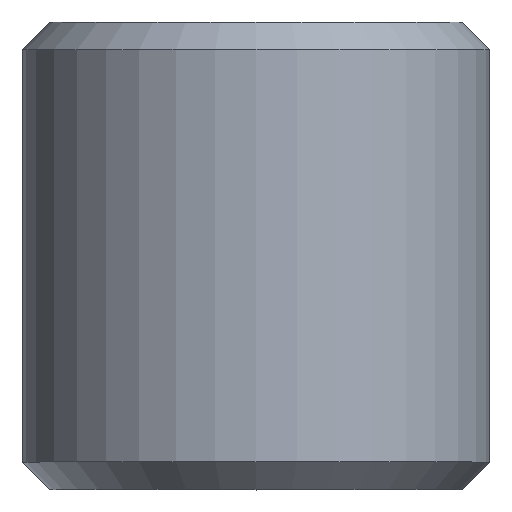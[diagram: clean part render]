
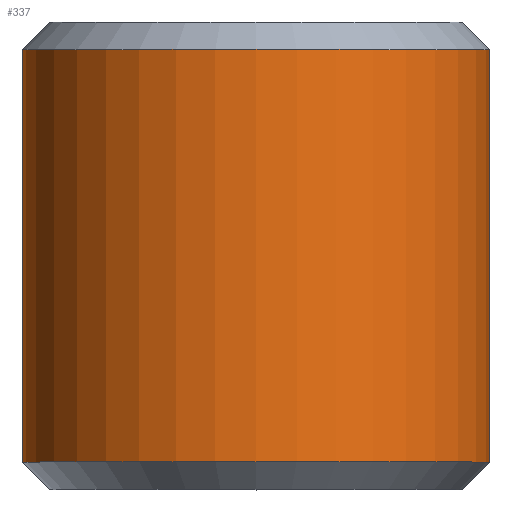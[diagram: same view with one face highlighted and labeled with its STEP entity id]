
A CAD part, top view. The second image highlights one B-rep face of the part: STEP entity #337.
In plain terms, the highlighted cylindrical face has radius 8.5 mm (diameter 17 mm), a partial arc.
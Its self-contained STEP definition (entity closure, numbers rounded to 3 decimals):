
#109=CARTESIAN_POINT('',(0.,7.5,0.));
#110=DIRECTION('',(0.,1.,0.));
#111=DIRECTION('',(-1.,0.,0.));
#112=AXIS2_PLACEMENT_3D('',#109,#110,#111);
#114=CARTESIAN_POINT('',(0.,-7.5,0.));
#115=DIRECTION('',(0.,-1.,0.));
#116=DIRECTION('',(1.,0.,0.));
#117=AXIS2_PLACEMENT_3D('',#114,#115,#116);
#119=DIRECTION('',(0.,1.,0.));
#120=VECTOR('',#119,15.);
#121=CARTESIAN_POINT('',(-8.5,-7.5,
0.));
#122=LINE('',#121,#120);
#133=DIRECTION('',(0.,1.,0.));
#134=VECTOR('',#133,15.);
#135=CARTESIAN_POINT('',(8.5,-7.5,
0.));
#136=LINE('',#135,#134);
#165=CARTESIAN_POINT('',(8.5,7.5,0.));
#166=CARTESIAN_POINT('',(-8.5,7.5,0.));
#167=VERTEX_POINT('',#165);
#168=VERTEX_POINT('',#166);
#173=CARTESIAN_POINT('',(-8.5,-7.5,0.));
#174=CARTESIAN_POINT('',(8.5,-7.5,0.));
#175=VERTEX_POINT('',#173);
#176=VERTEX_POINT('',#174);
#323=CARTESIAN_POINT('',(0.,-8.5,0.));
#324=DIRECTION('',(0.,1.,0.));
#325=DIRECTION('',(1.,0.,0.));
#326=AXIS2_PLACEMENT_3D('',#323,#324,#325);
#327=CYLINDRICAL_SURFACE('',#326,8.5);
#328=ORIENTED_EDGE('',*,*,#317,.T.);
#330=ORIENTED_EDGE('',*,*,#329,.F.);
#332=ORIENTED_EDGE('',*,*,#331,.T.);
#334=ORIENTED_EDGE('',*,*,#333,.T.);
#335=EDGE_LOOP('',(#328,#330,#332,#334));
#336=FACE_OUTER_BOUND('',#335,.F.);
#113=CIRCLE('',#112,8.5);
#118=CIRCLE('',#117,8.5);
#317=EDGE_CURVE('',#168,#167,#113,.T.);
#329=EDGE_CURVE('',#176,#167,#136,.T.);
#331=EDGE_CURVE('',#176,#175,#118,.T.);
#333=EDGE_CURVE('',#175,#168,#122,.T.);
#337=ADVANCED_FACE('',(#336),#327,.T.);
